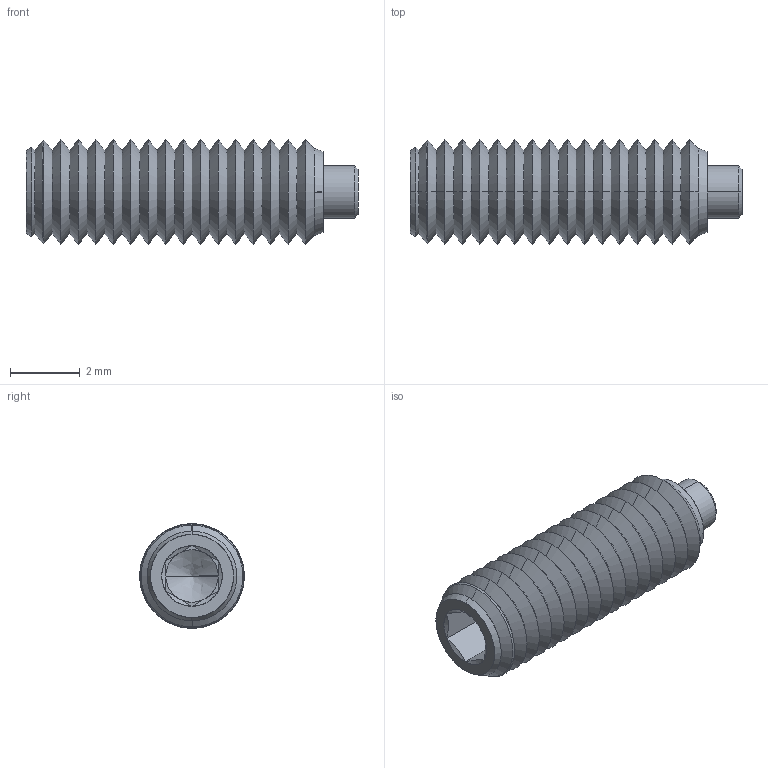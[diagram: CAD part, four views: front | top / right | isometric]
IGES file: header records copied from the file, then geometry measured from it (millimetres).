
Start section: SolidWorks IGES file using analytic representation for surfaces
Global section: file name: C:\Users\IanO\Desktop\P0120_v2_230406\P0120_v2_20230506_IGES\P0120.030-010.igs; native system: SolidWorks 2019; preprocessor: SolidWorks 2019; author: IanO; date: 230406.142204; units: millimetre
Bounding box: 9.5 x 3 x 3 mm (x, y, z)
Surface area: 146 mm2 (no closed solid volume)
Topology: 0 solids, 0 shells, 103 faces, 594 edges, 592 vertices
Faces by surface type: revolution 86, bspline 17
